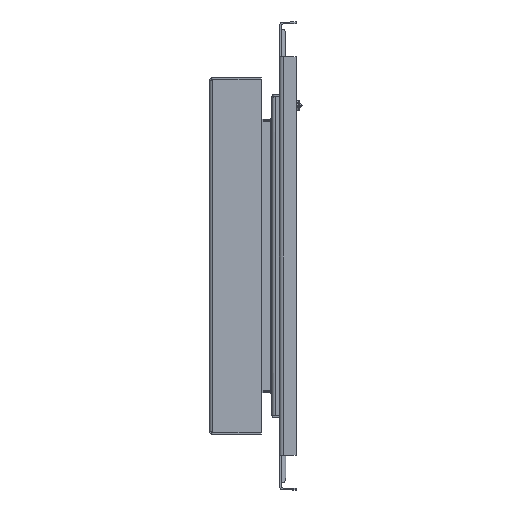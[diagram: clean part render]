
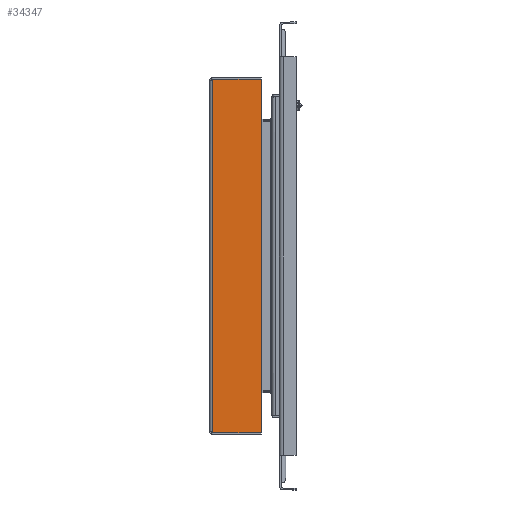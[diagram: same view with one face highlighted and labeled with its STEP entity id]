
A CAD part, left-side view. The second image highlights one B-rep face of the part: STEP entity #34347.
In plain terms, the highlighted planar face has unit normal (-1, 0, 0) as drawn and (1, 0, 0) by its records, which use the part's own axes.
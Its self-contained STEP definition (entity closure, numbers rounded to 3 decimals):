
#493 = CARTESIAN_POINT ( 'NONE',  ( 175., 173.169, 3.353 ) ) ;
#1956 = EDGE_LOOP ( 'NONE', ( #17221, #6761, #25383, #16143 ) ) ;
#4040 = EDGE_CURVE ( 'NONE', #28506, #21795, #12642, .T. ) ;
#4074 = DIRECTION ( 'NONE',  ( 0., -1., 0. ) ) ;
#4695 = LINE ( 'NONE', #23848, #33878 ) ;
#6333 = CARTESIAN_POINT ( 'NONE',  ( 175., -173.169, 1.829 ) ) ;
#6444 = CARTESIAN_POINT ( 'NONE',  ( 175., -173.169, 50.8 ) ) ;
#6761 = ORIENTED_EDGE ( 'NONE', *, *, #32102, .T. ) ;
#6911 = CARTESIAN_POINT ( 'NONE',  ( 175., -175., 50.8 ) ) ;
#9175 = DIRECTION ( 'NONE',  ( 0., 0., 1. ) ) ;
#9883 = DIRECTION ( 'NONE',  ( 0., -1., 0. ) ) ;
#10123 = EDGE_CURVE ( 'NONE', #32090, #11609, #4695, .T. ) ;
#11609 = VERTEX_POINT ( 'NONE', #6444 ) ;
#12597 = PLANE ( 'NONE',  #16164 ) ;
#12642 = LINE ( 'NONE', #26811, #27688 ) ;
#14266 = CARTESIAN_POINT ( 'NONE',  ( 175., -173.169, 3.353 ) ) ;
#16143 = ORIENTED_EDGE ( 'NONE', *, *, #30208, .F. ) ;
#16164 = AXIS2_PLACEMENT_3D ( 'NONE', #6911, #35198, #18274 ) ;
#17221 = ORIENTED_EDGE ( 'NONE', *, *, #4040, .F. ) ;
#18274 = DIRECTION ( 'NONE',  ( 0., 0., 1. ) ) ;
#18665 = CARTESIAN_POINT ( 'NONE',  ( 175., 173.169, 50.8 ) ) ;
#19666 = LINE ( 'NONE', #18665, #32021 ) ;
#19767 = VECTOR ( 'NONE', #9175, 1000. ) ;
#21533 = DIRECTION ( 'NONE',  ( 0., 0., 1. ) ) ;
#21795 = VERTEX_POINT ( 'NONE', #14266 ) ;
#23848 = CARTESIAN_POINT ( 'NONE',  ( 175., -175., 50.8 ) ) ;
#25383 = ORIENTED_EDGE ( 'NONE', *, *, #10123, .T. ) ;
#26811 = CARTESIAN_POINT ( 'NONE',  ( 175., -175., 3.353 ) ) ;
#27688 = VECTOR ( 'NONE', #9883, 1000. ) ;
#27833 = FACE_OUTER_BOUND ( 'NONE', #1956, .T. ) ;
#28506 = VERTEX_POINT ( 'NONE', #493 ) ;
#30208 = EDGE_CURVE ( 'NONE', #21795, #11609, #34776, .T. ) ;
#32021 = VECTOR ( 'NONE', #21533, 1000. ) ;
#32090 = VERTEX_POINT ( 'NONE', #35588 ) ;
#32102 = EDGE_CURVE ( 'NONE', #28506, #32090, #19666, .T. ) ;
#33878 = VECTOR ( 'NONE', #4074, 1000. ) ;
#34347 = ADVANCED_FACE ( 'NONE', ( #27833 ), #12597, .F. ) ;
#34776 = LINE ( 'NONE', #6333, #19767 ) ;
#35198 = DIRECTION ( 'NONE',  ( -1., 0., 0. ) ) ;
#35588 = CARTESIAN_POINT ( 'NONE',  ( 175., 173.169, 50.8 ) ) ;
